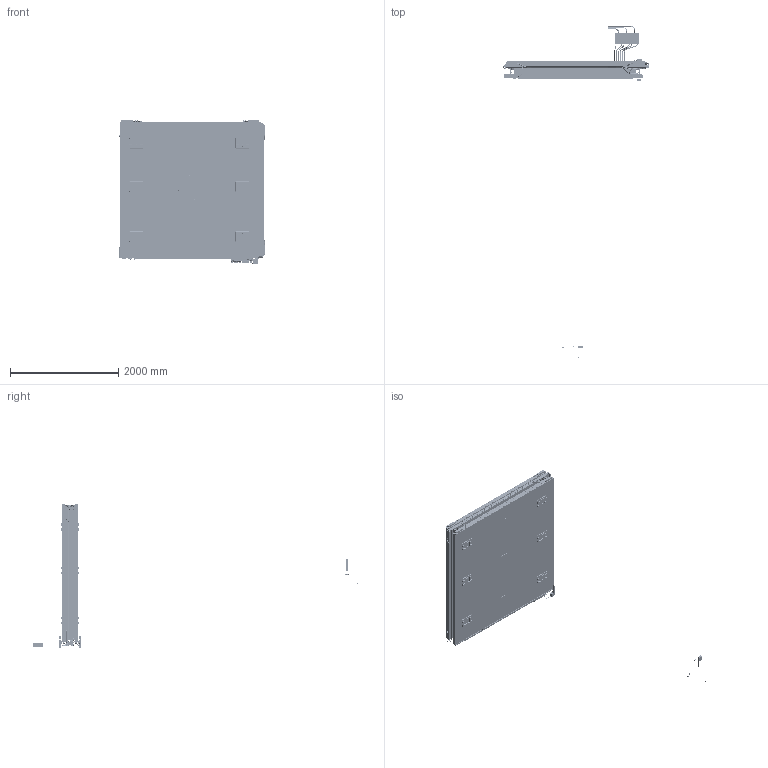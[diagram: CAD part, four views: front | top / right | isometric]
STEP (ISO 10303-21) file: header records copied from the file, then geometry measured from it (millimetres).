
FILE_DESCRIPTION(/* description */ (''),/* implementation_level */ '2;1');
FILE_NAME(/* name */ 'mb2_-2_2_4_L.stp',/* time_stamp */ '2017-05-19T11:02:42+02:00',/* author */ (''),/* organization */ (''),/* preprocessor_version */ 'ST-DEVELOPER v16',/* originating_system */ 'SIEMENS PLM Software NX 10.0',/* authorisation */ '');
FILE_SCHEMA (('AUTOMOTIVE_DESIGN { 1 0 10303 214 3 1 1 1 }'));
Products named in the file (222): busbar_pin; ass_4_variables; piastra_0011_spess; piastra_0011; rivetto_4; spina_5x26; elicoil; rivetto_svas_m10; connett_fe_littl; power_supply_model; tappo1_4; connett_test_p; mb45_phi_lam_vars; mb3c_phi_lam_vars; mb3_phi_lam_vars; mb2c_th_lam_vars; mb2c_phi_lam_vars; mb2_th_lam_vars; mb2_phi_lam_vars; mb3c_th_lam_vars; mb45c_phi_lam_vars; mb3_th_lam_vars; mb48_phi_lam_vars; mb1_phi_lam_vars; mb1_th_lam_vars; mb49_phi_lam_vars; mb1c_phi_lam_vars; mb1c_th_lam_vars; cover_new2; axis; tappo1_8; colon_front_000308; block_sh12_000301; BLK524; BLK523; BLK522; BLK521; BLK519; BLK518; BLK517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
Assembly tree (505 placements, depth 9):
  030930_mb2_-2_2_4_phi_L_carters
    mb2_-2_2_4_ass
      mb2_-2_2_4_ch
        mb2_phi_superlay  x2
          mb2_q1_ass_lamiere
            mb2_q1_b1
            mb2_q1_b1_up
            cms_mb_02_004  x4
              mb2_ass_4_variables
                ass_4_variables
          mb2_q1_ass_lateral
            as_angle  x2
              block_sh12_000301
              colon_front_000308
            cms_mb_02_014
          vite_m4
          mb2_q1_cover_hv_ass
            cms_mb_02_027
            cms_mb_02_022
              tappo1_8  x2
              axis  x35
            as_hv_conn_cover  x2
              cover_new2
          vars
            mb1c_th_vars
              mb1c_th_lam_vars
            mb1c_phi_vars
              mb1c_phi_lam_vars
            mb49_phi_vars
              mb49_phi_lam_vars
            mb1_th_vars
              mb1_th_lam_vars
            mb1_phi_vars
              mb1_phi_lam_vars
            mb48_phi_vars
              mb48_phi_lam_vars
            mb3_th_vars
              mb3_th_lam_vars
            mb45c_phi_vars
              mb45c_phi_lam_vars
            mb3c_th_vars
              mb3c_th_lam_vars
            mb2_phi_vars
              mb2_phi_lam_vars
            mb2_th_vars
              mb2_th_lam_vars
            mb2c_phi_vars
              mb2c_phi_lam_vars
            mb2c_th_vars
              mb2c_th_lam_vars
            mb3_phi_vars
              mb3_phi_lam_vars
            mb3c_phi_vars
              mb3c_phi_lam_vars
            mb45_phi_vars
              mb45_phi_lam_vars
          2550_ass
            2550_cms_mb_02_043
              axis  x39
              connett_test_p  x4
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Bounding box: 2693.01 x 6131.55 x 2646.04 mm (x, y, z)
Volume: 1862530622.9 mm3; surface area: 195874018.7 mm2
Topology: 326 solids, 779 shells, 17398 faces, 55040 edges, 46208 vertices
Faces by surface type: plane 10495, cylinder 4997, cone 1364, torus 343, bspline 152, sphere 47
Full cylindrical faces by diameter (mm): 1 x219, 1.675 x12, 2.594 x54, 3 x72, 3.2 x12, 3.25 x6, 3.3 x36, 3.432 x473, 3.5 x54, 3.778 x7, 4 x35, 4.8 x33, 5 x59, 5.188 x64, 5.5 x296, 6 x47, 6.4 x18, 6.5 x19, 7 x3, 7.188 x4, 7.5 x72, 8 x72, 8.6 x6, 8.782 x28, 8.8 x30, 8.933 x24, 8.985 x24, 9.061 x1, 9.391 x48, 9.5 x69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
Entity records: 371477 total; most frequent: CARTESIAN_POINT 113021, ORIENTED_EDGE 44335, DIRECTION 41320, EDGE_CURVE 22817, AXIS2_PLACEMENT_3D 15283, VERTEX_POINT 14471, EDGE_LOOP 12705, B_SPLINE_CURVE_WITH_KNOTS 12333
